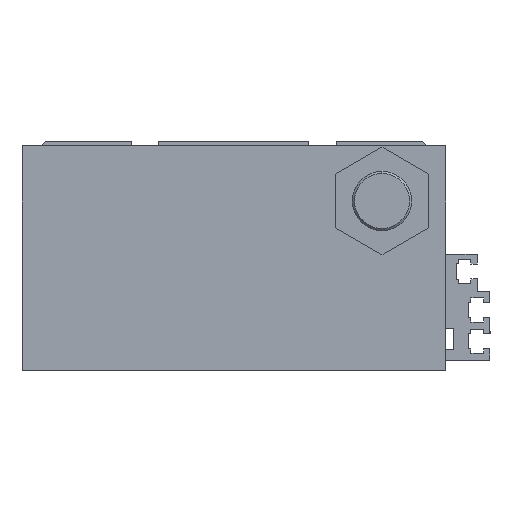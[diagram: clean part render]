
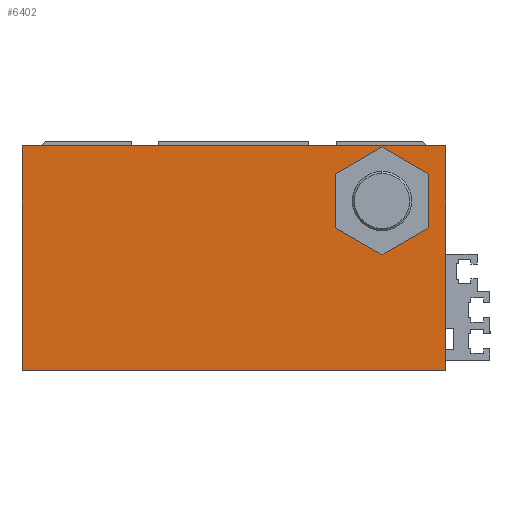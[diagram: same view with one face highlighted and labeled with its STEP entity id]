
A CAD part, left-side view. The second image highlights one B-rep face of the part: STEP entity #6402.
In plain terms, the highlighted planar face has unit normal (-1, 0, 0).
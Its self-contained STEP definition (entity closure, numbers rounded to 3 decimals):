
#4903=CARTESIAN_POINT('',(0.0,50.0,0.025));
#4904=VERTEX_POINT('',#4903);
#4911=CARTESIAN_POINT('',(0.0,50.,53.025));
#4912=VERTEX_POINT('',#4911);
#4913=CARTESIAN_POINT('',(0.0,50.0,0.025));
#4914=DIRECTION('',(0.0,0.0,1.0));
#4915=VECTOR('',#4914,53.);
#4916=LINE('',#4913,#4915);
#4917=EDGE_CURVE('',#4904,#4912,#4916,.T.);
#4960=CARTESIAN_POINT('',(0.0,-50.0,0.025));
#4961=VERTEX_POINT('',#4960);
#4968=CARTESIAN_POINT('',(0.0,-50.0,0.025));
#4969=DIRECTION('',(0.0,1.0,0.0));
#4970=VECTOR('',#4969,100.0);
#4971=LINE('',#4968,#4970);
#4972=EDGE_CURVE('',#4961,#4904,#4971,.T.);
#5099=CARTESIAN_POINT('',(0.0,-50.,53.025));
#5100=VERTEX_POINT('',#5099);
#5107=CARTESIAN_POINT('',(0.0,-50.,53.025));
#5108=DIRECTION('',(0.0,0.0,-1.0));
#5109=VECTOR('',#5108,53.);
#5110=LINE('',#5107,#5109);
#5111=EDGE_CURVE('',#5100,#4961,#5110,.T.);
#6122=CARTESIAN_POINT('',(0.0,-24.,46.376));
#6123=VERTEX_POINT('',#6122);
#6130=CARTESIAN_POINT('',(0.0,-24.,33.674));
#6131=VERTEX_POINT('',#6130);
#6132=CARTESIAN_POINT('',(0.0,-24.,33.674));
#6133=DIRECTION('',(0.0,0.0,1.0));
#6134=VECTOR('',#6133,12.702);
#6135=LINE('',#6132,#6134);
#6136=EDGE_CURVE('',#6131,#6123,#6135,.T.);
#6153=CARTESIAN_POINT('',(0.0,-35.,52.727));
#6154=VERTEX_POINT('',#6153);
#6161=CARTESIAN_POINT('',(0.0,-24.,46.376));
#6162=DIRECTION('',(0.0,-0.866,0.5));
#6163=VECTOR('',#6162,12.702);
#6164=LINE('',#6161,#6163);
#6165=EDGE_CURVE('',#6123,#6154,#6164,.T.);
#6177=CARTESIAN_POINT('',(0.0,-46.,46.376));
#6178=VERTEX_POINT('',#6177);
#6185=CARTESIAN_POINT('',(0.0,-35.,52.727));
#6186=DIRECTION('',(0.0,-0.866,-0.5));
#6187=VECTOR('',#6186,12.702);
#6188=LINE('',#6185,#6187);
#6189=EDGE_CURVE('',#6154,#6178,#6188,.T.);
#6201=CARTESIAN_POINT('',(0.0,-46.,33.674));
#6202=VERTEX_POINT('',#6201);
#6209=CARTESIAN_POINT('',(0.0,-46.,46.376));
#6210=DIRECTION('',(0.0,0.0,-1.0));
#6211=VECTOR('',#6210,12.702);
#6212=LINE('',#6209,#6211);
#6213=EDGE_CURVE('',#6178,#6202,#6212,.T.);
#6225=CARTESIAN_POINT('',(0.0,-35.,27.323));
#6226=VERTEX_POINT('',#6225);
#6233=CARTESIAN_POINT('',(0.0,-46.,33.674));
#6234=DIRECTION('',(0.0,0.866,-0.5));
#6235=VECTOR('',#6234,12.702);
#6236=LINE('',#6233,#6235);
#6237=EDGE_CURVE('',#6202,#6226,#6236,.T.);
#6250=CARTESIAN_POINT('',(0.0,-35.,27.323));
#6251=DIRECTION('',(0.0,0.866,0.5));
#6252=VECTOR('',#6251,12.702);
#6253=LINE('',#6250,#6252);
#6254=EDGE_CURVE('',#6226,#6131,#6253,.T.);
#6348=CARTESIAN_POINT('',(0.0,50.,53.025));
#6349=DIRECTION('',(0.0,-1.0,0.0));
#6350=VECTOR('',#6349,100.);
#6351=LINE('',#6348,#6350);
#6352=EDGE_CURVE('',#4912,#5100,#6351,.T.);
#6383=CARTESIAN_POINT('',(0.0,0.,26.525));
#6384=DIRECTION('',(1.0,0.0,0.0));
#6385=DIRECTION('',(0.0,0.0,-1.0));
#6386=AXIS2_PLACEMENT_3D('',#6383,#6384,#6385);
#6387=PLANE('',#6386);
#6388=ORIENTED_EDGE('',*,*,#4972,.F.);
#6389=ORIENTED_EDGE('',*,*,#5111,.F.);
#6390=ORIENTED_EDGE('',*,*,#6352,.F.);
#6391=ORIENTED_EDGE('',*,*,#4917,.F.);
#6392=EDGE_LOOP('',(#6388,#6389,#6390,#6391));
#6393=FACE_OUTER_BOUND('',#6392,.T.);
#6394=ORIENTED_EDGE('',*,*,#6136,.T.);
#6395=ORIENTED_EDGE('',*,*,#6165,.T.);
#6396=ORIENTED_EDGE('',*,*,#6189,.T.);
#6397=ORIENTED_EDGE('',*,*,#6213,.T.);
#6398=ORIENTED_EDGE('',*,*,#6237,.T.);
#6399=ORIENTED_EDGE('',*,*,#6254,.T.);
#6400=EDGE_LOOP('',(#6394,#6395,#6396,#6397,#6398,#6399));
#6401=FACE_BOUND('',#6400,.T.);
#6402=ADVANCED_FACE('',(#6393,#6401),#6387,.F.);
